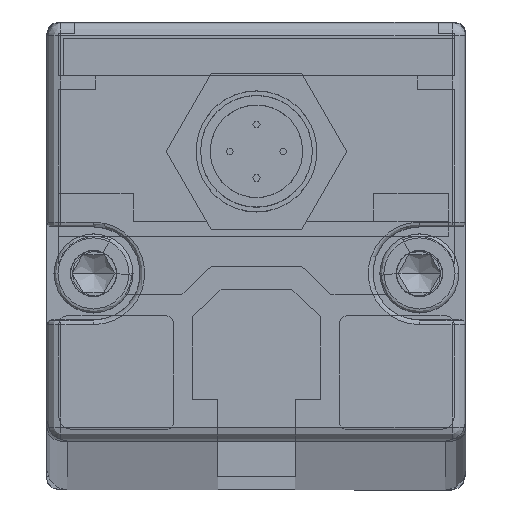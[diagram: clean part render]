
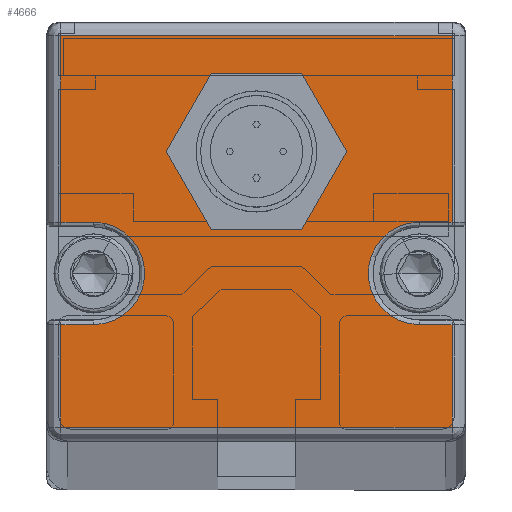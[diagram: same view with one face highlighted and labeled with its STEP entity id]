
A CAD part, top view. The second image highlights one B-rep face of the part: STEP entity #4666.
In plain terms, the highlighted planar face has unit normal (0, 0, 1) as drawn and (0, 1, 0) by its records, which use the part's own axes.
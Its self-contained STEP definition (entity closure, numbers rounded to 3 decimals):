
#1037 = VECTOR ( 'NONE', #7532, 1000. ) ;
#1042 = LINE ( 'NONE', #7531, #1037 ) ;
#1052 = LINE ( 'NONE', #7524, #1053 ) ;
#1053 = VECTOR ( 'NONE', #7526, 1000. ) ;
#1054 = LINE ( 'NONE', #7568, #1076 ) ;
#1057 = CIRCLE ( 'NONE', #6074, 5.5 ) ;
#1058 = LINE ( 'NONE', #7533, #1059 ) ;
#1059 = VECTOR ( 'NONE', #7534, 1000. ) ;
#1060 = LINE ( 'NONE', #7535, #1061 ) ;
#1061 = VECTOR ( 'NONE', #7536, 1000. ) ;
#1062 = LINE ( 'NONE', #7538, #1063 ) ;
#1063 = VECTOR ( 'NONE', #7539, 1000. ) ;
#1076 = VECTOR ( 'NONE', #7569, 1000. ) ;
#1082 = VECTOR ( 'NONE', #7577, 1000. ) ;
#1086 = LINE ( 'NONE', #7570, #1087 ) ;
#1087 = VECTOR ( 'NONE', #7571, 1000. ) ;
#1088 = LINE ( 'NONE', #7572, #1089 ) ;
#1089 = VECTOR ( 'NONE', #7573, 1000. ) ;
#1090 = LINE ( 'NONE', #7565, #1082 ) ;
#1091 = CIRCLE ( 'NONE', #6079, 6.5 ) ;
#1092 = LINE ( 'NONE', #7578, #1093 ) ;
#1093 = VECTOR ( 'NONE', #7579, 1000. ) ;
#1097 = CIRCLE ( 'NONE', #6075, 5.5 ) ;
#1602 = EDGE_LOOP ( 'NONE', ( #9771, #9773, #9774, #9775, #9777, #9778, #9797, #9790, #9791, #9794, #9793, #9814 ) ) ;
#2126 = VERTEX_POINT ( 'NONE', #7211 ) ;
#2146 = VERTEX_POINT ( 'NONE', #7230 ) ;
#2166 = VERTEX_POINT ( 'NONE', #7250 ) ;
#2171 = VERTEX_POINT ( 'NONE', #7255 ) ;
#2172 = VERTEX_POINT ( 'NONE', #7256 ) ;
#2180 = VERTEX_POINT ( 'NONE', #7264 ) ;
#2219 = VERTEX_POINT ( 'NONE', #7303 ) ;
#2223 = VERTEX_POINT ( 'NONE', #7307 ) ;
#2227 = VERTEX_POINT ( 'NONE', #7311 ) ;
#2881 = EDGE_LOOP ( 'NONE', ( #9785, #9769 ) ) ;
#2988 = CIRCLE ( 'NONE', #6121, 6.5 ) ;
#3802 = EDGE_CURVE ( 'NONE', #2180, #2171, #1052, .T. ) ;
#3803 = EDGE_CURVE ( 'NONE', #2126, #2219, #1057, .T. ) ;
#3804 = EDGE_CURVE ( 'NONE', #2219, #5551, #1042, .T. ) ;
#3805 = EDGE_CURVE ( 'NONE', #2223, #2146, #1058, .T. ) ;
#3806 = EDGE_CURVE ( 'NONE', #5500, #5150, #1060, .T. ) ;
#3807 = EDGE_CURVE ( 'NONE', #5551, #5500, #1062, .T. ) ;
#3819 = EDGE_CURVE ( 'NONE', #2146, #2166, #1054, .T. ) ;
#3820 = EDGE_CURVE ( 'NONE', #2166, #2126, #1086, .T. ) ;
#3821 = EDGE_CURVE ( 'NONE', #5150, #2180, #1088, .T. ) ;
#3822 = EDGE_CURVE ( 'NONE', #2172, #2227, #1091, .T. ) ;
#3823 = EDGE_CURVE ( 'NONE', #5130, #5564, #1090, .T. ) ;
#3824 = EDGE_CURVE ( 'NONE', #5564, #2223, #1092, .T. ) ;
#3826 = EDGE_CURVE ( 'NONE', #2171, #5130, #1097, .T. ) ;
#3944 = EDGE_CURVE ( 'NONE', #2227, #2172, #2988, .T. ) ;
#4666 = ADVANCED_FACE ( 'NONE', ( #4824, #4783 ), #8333, .T. ) ;
#4783 = FACE_OUTER_BOUND ( 'NONE', #1602, .T. ) ;
#4824 = FACE_BOUND ( 'NONE', #2881, .T. ) ;
#5130 = VERTEX_POINT ( 'NONE', #8926 ) ;
#5150 = VERTEX_POINT ( 'NONE', #8933 ) ;
#5500 = VERTEX_POINT ( 'NONE', #8981 ) ;
#5551 = VERTEX_POINT ( 'NONE', #9031 ) ;
#5564 = VERTEX_POINT ( 'NONE', #9042 ) ;
#6074 = AXIS2_PLACEMENT_3D ( 'NONE', #7527, #7528, #7529 ) ;
#6075 = AXIS2_PLACEMENT_3D ( 'NONE', #7583, #7584, #7585 ) ;
#6079 = AXIS2_PLACEMENT_3D ( 'NONE', #7560, #7574, #7575 ) ;
#6121 = AXIS2_PLACEMENT_3D ( 'NONE', #7853, #7859, #7860 ) ;
#6203 = AXIS2_PLACEMENT_3D ( 'NONE', #8330, #8334, #8335 ) ;
#7211 = CARTESIAN_POINT ( 'NONE',  ( -17.5, 7., -1. ) ) ;
#7230 = CARTESIAN_POINT ( 'NONE',  ( -21., 7., -21. ) ) ;
#7250 = CARTESIAN_POINT ( 'NONE',  ( -21., 7., -1. ) ) ;
#7255 = CARTESIAN_POINT ( 'NONE',  ( 17.5, 7., 10. ) ) ;
#7256 = CARTESIAN_POINT ( 'NONE',  ( 0., 7., -2.1 ) ) ;
#7264 = CARTESIAN_POINT ( 'NONE',  ( 21., 7., 10. ) ) ;
#7303 = CARTESIAN_POINT ( 'NONE',  ( -17.5, 7., 10. ) ) ;
#7307 = CARTESIAN_POINT ( 'NONE',  ( 21., 7., -21. ) ) ;
#7311 = CARTESIAN_POINT ( 'NONE',  ( 0., 7., -15.1 ) ) ;
#7524 = CARTESIAN_POINT ( 'NONE',  ( 22.5, 7., 10. ) ) ;
#7526 = DIRECTION ( 'NONE',  ( -1., 0., 0. ) ) ;
#7527 = CARTESIAN_POINT ( 'NONE',  ( -17.5, 7., 4.5 ) ) ;
#7528 = DIRECTION ( 'NONE',  ( 0., -1., 0. ) ) ;
#7529 = DIRECTION ( 'NONE',  ( 0., 0., 1. ) ) ;
#7531 = CARTESIAN_POINT ( 'NONE',  ( 22.5, 7., 10. ) ) ;
#7532 = DIRECTION ( 'NONE',  ( -1., 0., 0. ) ) ;
#7533 = CARTESIAN_POINT ( 'NONE',  ( 22.5, 7., -21. ) ) ;
#7534 = DIRECTION ( 'NONE',  ( -1., 0., 0. ) ) ;
#7535 = CARTESIAN_POINT ( 'NONE',  ( 22.5, 7., 21. ) ) ;
#7536 = DIRECTION ( 'NONE',  ( 1., 0., 0. ) ) ;
#7538 = CARTESIAN_POINT ( 'NONE',  ( -21., 7., 22.5 ) ) ;
#7539 = DIRECTION ( 'NONE',  ( 0., 0., 1. ) ) ;
#7560 = CARTESIAN_POINT ( 'NONE',  ( 0., 7., -8.6 ) ) ;
#7565 = CARTESIAN_POINT ( 'NONE',  ( 22.5, 7., -1. ) ) ;
#7568 = CARTESIAN_POINT ( 'NONE',  ( -21., 7., 22.5 ) ) ;
#7569 = DIRECTION ( 'NONE',  ( 0., 0., 1. ) ) ;
#7570 = CARTESIAN_POINT ( 'NONE',  ( 22.5, 7., -1. ) ) ;
#7571 = DIRECTION ( 'NONE',  ( 1., 0., 0. ) ) ;
#7572 = CARTESIAN_POINT ( 'NONE',  ( 21., 7., 9.5 ) ) ;
#7573 = DIRECTION ( 'NONE',  ( 0., 0., -1. ) ) ;
#7574 = DIRECTION ( 'NONE',  ( 0., 1., 0. ) ) ;
#7575 = DIRECTION ( 'NONE',  ( 0., 0., 1. ) ) ;
#7577 = DIRECTION ( 'NONE',  ( 1., 0., 0. ) ) ;
#7578 = CARTESIAN_POINT ( 'NONE',  ( 21., 7., -22.5 ) ) ;
#7579 = DIRECTION ( 'NONE',  ( 0., 0., -1. ) ) ;
#7583 = CARTESIAN_POINT ( 'NONE',  ( 17.5, 7., 4.5 ) ) ;
#7584 = DIRECTION ( 'NONE',  ( 0., -1., 0. ) ) ;
#7585 = DIRECTION ( 'NONE',  ( 0., 0., 1. ) ) ;
#7853 = CARTESIAN_POINT ( 'NONE',  ( 0., 7., -8.6 ) ) ;
#7859 = DIRECTION ( 'NONE',  ( 0., 1., 0. ) ) ;
#7860 = DIRECTION ( 'NONE',  ( 0., 0., 1. ) ) ;
#8330 = CARTESIAN_POINT ( 'NONE',  ( 22.5, 7., 22.5 ) ) ;
#8333 = PLANE ( 'NONE',  #6203 ) ;
#8334 = DIRECTION ( 'NONE',  ( 0., 1., 0. ) ) ;
#8335 = DIRECTION ( 'NONE',  ( 0., 0., 1. ) ) ;
#8926 = CARTESIAN_POINT ( 'NONE',  ( 17.5, 7., -1. ) ) ;
#8933 = CARTESIAN_POINT ( 'NONE',  ( 21., 7., 21. ) ) ;
#8981 = CARTESIAN_POINT ( 'NONE',  ( -21., 7., 21. ) ) ;
#9031 = CARTESIAN_POINT ( 'NONE',  ( -21., 7., 10. ) ) ;
#9042 = CARTESIAN_POINT ( 'NONE',  ( 21., 7., -1. ) ) ;
#9769 = ORIENTED_EDGE ( 'NONE', *, *, #3944, .F. ) ;
#9771 = ORIENTED_EDGE ( 'NONE', *, *, #3821, .T. ) ;
#9773 = ORIENTED_EDGE ( 'NONE', *, *, #3802, .T. ) ;
#9774 = ORIENTED_EDGE ( 'NONE', *, *, #3826, .T. ) ;
#9775 = ORIENTED_EDGE ( 'NONE', *, *, #3823, .T. ) ;
#9777 = ORIENTED_EDGE ( 'NONE', *, *, #3824, .T. ) ;
#9778 = ORIENTED_EDGE ( 'NONE', *, *, #3805, .T. ) ;
#9785 = ORIENTED_EDGE ( 'NONE', *, *, #3822, .F. ) ;
#9790 = ORIENTED_EDGE ( 'NONE', *, *, #3820, .T. ) ;
#9791 = ORIENTED_EDGE ( 'NONE', *, *, #3803, .T. ) ;
#9793 = ORIENTED_EDGE ( 'NONE', *, *, #3807, .T. ) ;
#9794 = ORIENTED_EDGE ( 'NONE', *, *, #3804, .T. ) ;
#9797 = ORIENTED_EDGE ( 'NONE', *, *, #3819, .T. ) ;
#9814 = ORIENTED_EDGE ( 'NONE', *, *, #3806, .T. ) ;
